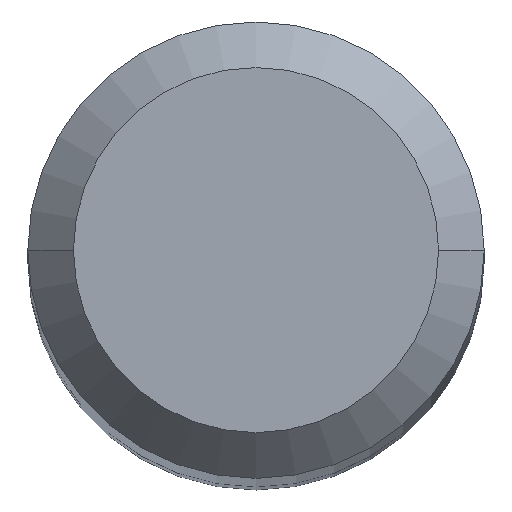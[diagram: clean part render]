
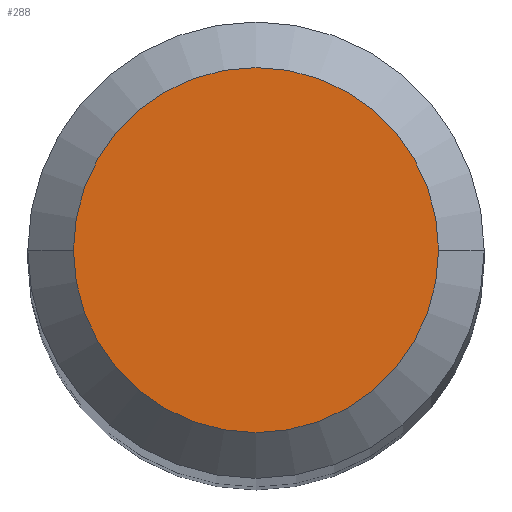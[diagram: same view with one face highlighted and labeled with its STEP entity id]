
A CAD part, top view. The second image highlights one B-rep face of the part: STEP entity #288.
In plain terms, the highlighted planar face has unit normal (0, 0, 1).
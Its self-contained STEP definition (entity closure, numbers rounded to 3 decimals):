
#22 = DIRECTION ( 'NONE',  ( 1., 0., 0. ) ) ;
#35 = CIRCLE ( 'NONE', #154, 1.4 ) ;
#53 = AXIS2_PLACEMENT_3D ( 'NONE', #224, #200, #22 ) ;
#60 = ORIENTED_EDGE ( 'NONE', *, *, #157, .F. ) ;
#70 = CARTESIAN_POINT ( 'NONE',  ( 0., 0., 0. ) ) ;
#77 = CARTESIAN_POINT ( 'NONE',  ( -1.4, 0., 0. ) ) ;
#92 = EDGE_LOOP ( 'NONE', ( #60, #232 ) ) ;
#109 = DIRECTION ( 'NONE',  ( 0., 0., -1. ) ) ;
#131 = DIRECTION ( 'NONE',  ( 0., 0., -1. ) ) ;
#137 = CARTESIAN_POINT ( 'NONE',  ( 0., 0., 0. ) ) ;
#148 = VERTEX_POINT ( 'NONE', #77 ) ;
#154 = AXIS2_PLACEMENT_3D ( 'NONE', #70, #131, #246 ) ;
#157 = EDGE_CURVE ( 'NONE', #148, #264, #35, .T. ) ;
#176 = CIRCLE ( 'NONE', #299, 1.4 ) ;
#200 = DIRECTION ( 'NONE',  ( 0., 0., 1. ) ) ;
#221 = DIRECTION ( 'NONE',  ( -1., 0., 0. ) ) ;
#224 = CARTESIAN_POINT ( 'NONE',  ( 0., 1.4, 0. ) ) ;
#232 = ORIENTED_EDGE ( 'NONE', *, *, #283, .F. ) ;
#246 = DIRECTION ( 'NONE',  ( -1., 0., 0. ) ) ;
#250 = PLANE ( 'NONE',  #53 ) ;
#264 = VERTEX_POINT ( 'NONE', #381 ) ;
#283 = EDGE_CURVE ( 'NONE', #264, #148, #176, .T. ) ;
#288 = ADVANCED_FACE ( 'NONE', ( #312 ), #250, .T. ) ;
#299 = AXIS2_PLACEMENT_3D ( 'NONE', #137, #109, #221 ) ;
#312 = FACE_OUTER_BOUND ( 'NONE', #92, .T. ) ;
#381 = CARTESIAN_POINT ( 'NONE',  ( 1.4, 0., 0. ) ) ;
